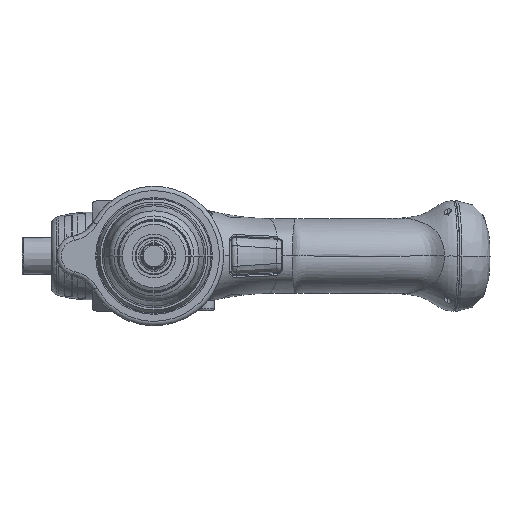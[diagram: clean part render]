
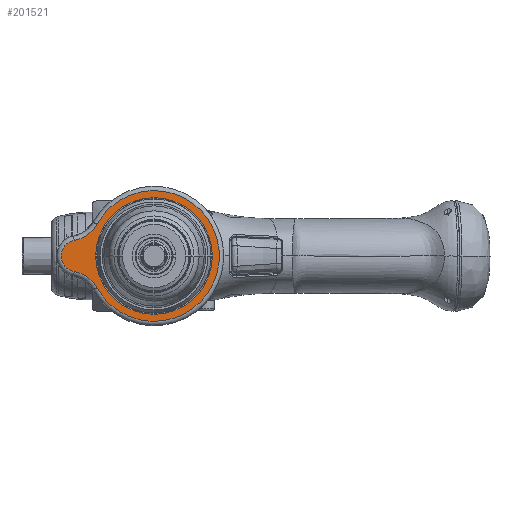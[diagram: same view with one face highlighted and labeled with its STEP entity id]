
A CAD part, left-side view. The second image highlights one B-rep face of the part: STEP entity #201521.
In plain terms, the highlighted planar face has unit normal (-1, 0, 0).
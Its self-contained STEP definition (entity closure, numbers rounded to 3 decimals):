
#199531=CARTESIAN_POINT('',(-140.2,38.875,21.656));
#199532=DIRECTION('',(1.,0.,0.));
#199533=DIRECTION('',(0.,-0.874,-0.487));
#199534=AXIS2_PLACEMENT_3D('',#199531,#199532,#199533);
#199536=CARTESIAN_POINT('',(-140.2,0.,0.));
#199537=DIRECTION('',(-1.,0.,0.));
#199538=DIRECTION('',(0.,0.874,-0.487));
#199539=AXIS2_PLACEMENT_3D('',#199536,#199537,#199538);
#199541=CARTESIAN_POINT('',(-140.2,38.875,-21.656));
#199542=DIRECTION('',(1.,0.,0.));
#199543=DIRECTION('',(0.,-0.176,0.984));
#199544=AXIS2_PLACEMENT_3D('',#199541,#199542,#199543);
#199546=CARTESIAN_POINT('',(-140.2,35.,0.));
#199547=DIRECTION('',(-1.,0.,0.));
#199548=DIRECTION('',(0.,0.176,0.984));
#199549=AXIS2_PLACEMENT_3D('',#199546,#199547,#199548);
#199551=CARTESIAN_POINT('',(-140.2,0.,0.));
#199552=DIRECTION('',(1.,0.,0.));
#199553=DIRECTION('',(0.,0.,-1.));
#199554=AXIS2_PLACEMENT_3D('',#199551,#199552,#199553);
#199556=CARTESIAN_POINT('',(-140.2,0.,0.));
#199557=DIRECTION('',(1.,0.,0.));
#199558=DIRECTION('',(0.,0.,1.));
#199559=AXIS2_PLACEMENT_3D('',#199556,#199557,#199558);
#200723=CARTESIAN_POINT('',(-140.2,0.,-26.5));
#200725=VERTEX_POINT('',#200723);
#200727=CARTESIAN_POINT('',(-140.2,0.,26.5));
#200729=VERTEX_POINT('',#200727);
#200758=CARTESIAN_POINT('',(-140.2,25.946,14.454));
#200759=CARTESIAN_POINT('',(-140.2,36.268,7.087));
#200760=VERTEX_POINT('',#200758);
#200761=VERTEX_POINT('',#200759);
#200766=CARTESIAN_POINT('',(-140.2,36.268,-7.087));
#200767=VERTEX_POINT('',#200766);
#200770=CARTESIAN_POINT('',(-140.2,25.946,-14.454));
#200771=VERTEX_POINT('',#200770);
#201502=CARTESIAN_POINT('',(-140.2,0.,0.));
#201503=DIRECTION('',(1.,0.,0.));
#201504=DIRECTION('',(0.,0.,-1.));
#201505=AXIS2_PLACEMENT_3D('',#201502,#201503,#201504);
#201506=PLANE('',#201505);
#201508=ORIENTED_EDGE('',*,*,#201507,.F.);
#201510=ORIENTED_EDGE('',*,*,#201509,.F.);
#201512=ORIENTED_EDGE('',*,*,#201511,.F.);
#201514=ORIENTED_EDGE('',*,*,#201513,.F.);
#201515=EDGE_LOOP('',(#201508,#201510,#201512,#201514));
#201516=FACE_OUTER_BOUND('',#201515,.F.);
#201517=ORIENTED_EDGE('',*,*,#201481,.F.);
#201518=ORIENTED_EDGE('',*,*,#201497,.F.);
#201519=EDGE_LOOP('',(#201517,#201518));
#201520=FACE_BOUND('',#201519,.F.);
#201521=ADVANCED_FACE('',(#201516,#201520),#201506,.F.);
#199535=CIRCLE('',#199534,14.8);
#199540=CIRCLE('',#199539,29.7);
#199545=CIRCLE('',#199544,14.8);
#199550=CIRCLE('',#199549,7.2);
#199555=CIRCLE('',#199554,26.5);
#199560=CIRCLE('',#199559,26.5);
#201481=EDGE_CURVE('',#200725,#200729,#199555,.T.);
#201497=EDGE_CURVE('',#200729,#200725,#199560,.T.);
#201507=EDGE_CURVE('',#200760,#200761,#199535,.T.);
#201509=EDGE_CURVE('',#200771,#200760,#199540,.T.);
#201511=EDGE_CURVE('',#200767,#200771,#199545,.T.);
#201513=EDGE_CURVE('',#200761,#200767,#199550,.T.);
